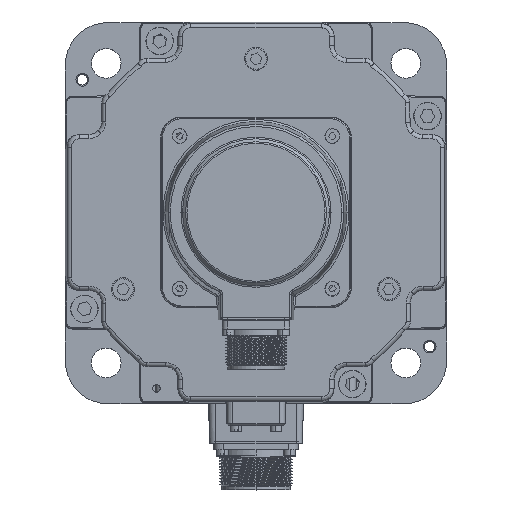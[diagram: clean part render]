
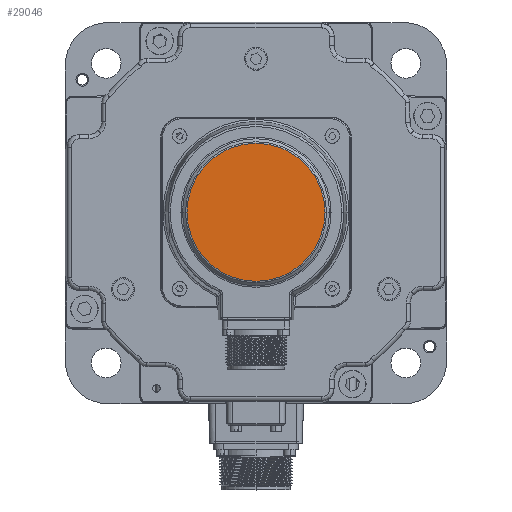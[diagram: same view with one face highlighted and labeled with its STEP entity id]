
A CAD part, top view. The second image highlights one B-rep face of the part: STEP entity #29046.
In plain terms, the highlighted planar face has unit normal (0, 0, 1).
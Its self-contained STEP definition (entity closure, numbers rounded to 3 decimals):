
#7670 = DIRECTION ( 'NONE',  ( 0., 0., 1. ) ) ;
#9579 = EDGE_CURVE ( 'NONE', #72340, #63019, #12526, .T. ) ;
#12526 = CIRCLE ( 'NONE', #16111, 32.586 ) ;
#12890 = DIRECTION ( 'NONE',  ( 0., 0., 1. ) ) ;
#16111 = AXIS2_PLACEMENT_3D ( 'NONE', #65480, #72091, #21517 ) ;
#21517 = DIRECTION ( 'NONE',  ( -1., 0., 0. ) ) ;
#27946 = CIRCLE ( 'NONE', #60959, 32.586 ) ;
#29046 = ADVANCED_FACE ( 'NONE', ( #34713 ), #63118, .T. ) ;
#29911 = DIRECTION ( 'NONE',  ( -1., 0., 0. ) ) ;
#30232 = DIRECTION ( 'NONE',  ( -1., 0., 0. ) ) ;
#34713 = FACE_OUTER_BOUND ( 'NONE', #42227, .T. ) ;
#40573 = CARTESIAN_POINT ( 'NONE',  ( 0., 0., 90.7 ) ) ;
#40795 = CARTESIAN_POINT ( 'NONE',  ( -32.586, 0., 90.7 ) ) ;
#42227 = EDGE_LOOP ( 'NONE', ( #42796, #69035 ) ) ;
#42796 = ORIENTED_EDGE ( 'NONE', *, *, #73004, .T. ) ;
#44771 = AXIS2_PLACEMENT_3D ( 'NONE', #45808, #12890, #29911 ) ;
#45808 = CARTESIAN_POINT ( 'NONE',  ( 0., 0., 90.7 ) ) ;
#51164 = CARTESIAN_POINT ( 'NONE',  ( 32.586, 0., 90.7 ) ) ;
#60959 = AXIS2_PLACEMENT_3D ( 'NONE', #40573, #7670, #30232 ) ;
#63019 = VERTEX_POINT ( 'NONE', #40795 ) ;
#63118 = PLANE ( 'NONE',  #44771 ) ;
#65480 = CARTESIAN_POINT ( 'NONE',  ( 0., 0., 90.7 ) ) ;
#69035 = ORIENTED_EDGE ( 'NONE', *, *, #9579, .T. ) ;
#72091 = DIRECTION ( 'NONE',  ( 0., 0., 1. ) ) ;
#72340 = VERTEX_POINT ( 'NONE', #51164 ) ;
#73004 = EDGE_CURVE ( 'NONE', #63019, #72340, #27946, .T. ) ;
